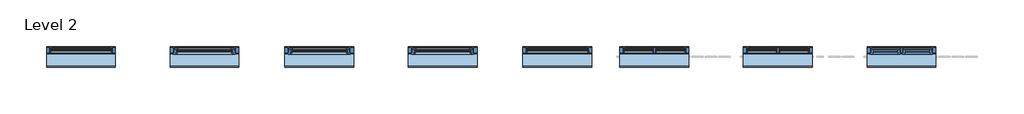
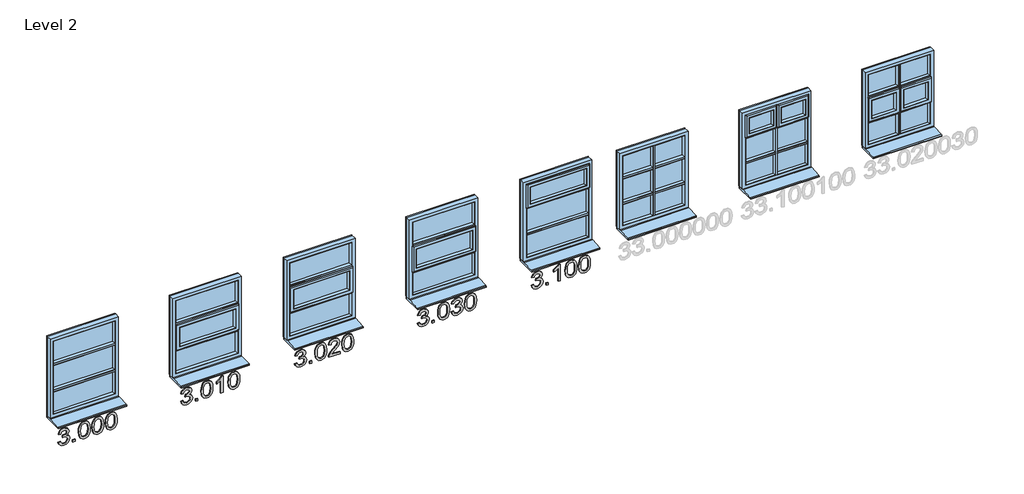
# One storey, part 1 of 2: 8 windows, 5 proxies.
"""IFC4 building model written with IfcOpenShell, lengths in millimetres."""

from ifc_helpers import new_model, si_unit, frame, origin, place, context, project, spatial, polyline, outline, extrude, transform, mapped, element, save
from components import standard_ae2f9f8e, standard_94e4261b, standard_d919b196, standard_7e199e20, standard_d67343e6, standard_8207f25b

model = new_model("IFC4")

# Units and contexts
model_context = context("Model", 3, world=origin())
ifc_project = project(units=[si_unit("LENGTHUNIT", "METRE", prefix="MILLI")], contexts=[model_context])

# Site, building, storey
site = spatial("IfcSite", under=ifc_project)
building = spatial("IfcBuilding", under=site)
storey = spatial("IfcBuildingStorey", under=building, Name="Level 2", Elevation=3000.0)

# Proxies
placement = place(None, origin())
element("IfcBuildingElementProxy", 1, Name="200mm Arial", ObjectType="200mm Arial", at=placement, inside=storey, context=model_context, shape_type="SweptSolid", body=[
    extrude(outline(polyline([(3352.6881933, -163201.9548648), (3329.9898741, -163195.7376591), (3311.9268682, -163181.9911352), (3300.1178561, -163162.2236093), (3296.1815188, -163137.9433976), (3300.7923065, -163111.1002747), (3314.6246695, -163089.3339233), (3335.0789084, -163074.9129491), (3359.5553238, -163070.1059577), (3377.5324907, -163072.5094534), (3392.223245, -163079.7199405), (3403.0389757, -163091.369537), (3409.3910714, -163107.090361), (3416.6383467, -163095.1219334), (3426.0193376, -163086.4889692), (3437.031272, -163081.2650449), (3449.1713779, -163079.5237368), (3462.2005318, -163081.3570154), (3474.5061846, -163086.8568512), (3485.1870252, -163095.8209092), (3493.3417427, -163108.0468542), (3498.5104848, -163122.5475361), (3500.2333988, -163138.3358051), (3496.7385198, -163160.261572), (3486.253883, -163178.2632643), (3469.4171503, -163191.421177), (3446.865984, -163198.8156051), (3443.7267243, -163173.7015276), (3457.4609855, -163169.2501554), (3467.271172, -163161.3897435), (3473.1572839, -163150.6230637), (3475.1193212, -163137.4528883), (3473.175678, -163124.3072383), (3467.3447484, -163113.8103388), (3458.5462374, -163106.9309454), (3447.6998499, -163104.6378143), (3434.6768272, -163107.8015995), (3425.5288283, -163117.292955), (3420.120963, -163130.7451733), (3418.3183412, -163145.7915469), (3418.6126468, -163149.8137233), (3393.4985693, -163152.6096265), (3396.2454215, -163135.0003417), (3393.6763789, -163119.2059413), (3385.9692511, -163106.4526989), (3374.3380487, -163098.0282012), (3359.9967822, -163095.2200353), (3344.889095, -163098.0527266), (3332.4301581, -163106.5508007), (3324.0792368, -163119.8436035), (3321.2955963, -163137.0604808), (3323.3189473, -163151.7328411), (3329.3890002, -163162.9838988), (3340.0453154, -163171.2183241), (3355.8274529, -163176.8407873), (3352.6881933, -163201.9548648)])), frame((0.0, 24202.6264647, 0.0), z_axis=(0.0, 1.0, 0.0), x_axis=(0.0, 0.0, 1.0)), (0.0, 0.0, 1.0), 10.0),
    extrude(outline(polyline([(-163010.4600236, 24202.6264647), (-163035.5741011, 24202.6264647), (-163035.5741011, 24212.6264647), (-163010.4600236, 24212.6264647), (-163010.4600236, 24202.6264647)])), frame((0.0, 0.0, 3299.3207785), z_axis=(0.0, 0.0, 1.0), x_axis=(1.0, 0.0, 0.0)), (0.0, 0.0, 1.0), 25.1140775),
    extrude(outline(polyline([(3398.1584079, -162969.6496476), (3349.2914162, -162964.6464524), (3330.4405296, -162958.3924585), (3315.3113825, -162949.636867), (3300.9639847, -162929.8202902), (3296.1815188, -162903.725194), (3298.9345024, -162883.4242393), (3307.1934532, -162866.96152), (3321.0503417, -162854.2266716), (3340.5971383, -162845.1093295), (3366.1833311, -162839.6278877), (3398.1584079, -162837.8007405), (3445.3699306, -162842.3624772), (3475.0947958, -162854.1347011), (3485.8553441, -162862.8044534), (3493.7586757, -162874.3927363), (3498.614718, -162888.2496248), (3500.2333988, -162903.725194), (3497.4988093, -162923.9157842), (3489.2950408, -162940.3417153), (3475.4933346, -162953.0949578), (3455.964932, -162962.2674822), (3430.3174256, -162967.8041062), (3398.1584079, -162969.6496476)]), holes=[polyline([(3398.2074588, -162944.53557), (3437.2029503, -162941.4944122), (3461.6793657, -162932.3709387), (3471.7593324, -162919.7403236), (3475.1193212, -162904.0194996), (3471.3056112, -162887.4157589), (3459.8644812, -162874.2946344), (3436.8228055, -162865.7597721), (3398.2074588, -162862.914818), (3358.7643775, -162865.857874), (3335.8882488, -162874.6870419), (3324.9437594, -162887.8326918), (3321.2955963, -162903.725194), (3324.9314967, -162919.6176962), (3335.8391979, -162932.7633462), (3358.7030639, -162941.5925141), (3398.2074588, -162944.53557)])]), frame((0.0, 24202.6264647, 0.0), z_axis=(0.0, 1.0, 0.0), x_axis=(0.0, 0.0, 1.0)), (0.0, 0.0, 1.0), 10.0),
    extrude(outline(polyline([(3398.1584079, -162815.8259227), (3349.2914162, -162810.8227275), (3330.4405296, -162804.5687336), (3315.3113825, -162795.8131421), (3300.9639847, -162775.9965653), (3296.1815188, -162749.9014691), (3298.9345024, -162729.6005144), (3307.1934532, -162713.1377951), (3321.0503417, -162700.4029467), (3340.5971383, -162691.2856046), (3366.1833311, -162685.8041628), (3398.1584079, -162683.9770156), (3445.3699306, -162688.5387523), (3475.0947958, -162700.3109762), (3485.8553441, -162708.9807285), (3493.7586757, -162720.5690114), (3498.614718, -162734.4258999), (3500.2333988, -162749.9014691), (3497.4988093, -162770.0920593), (3489.2950408, -162786.5179904), (3475.4933346, -162799.2712329), (3455.964932, -162808.4437573), (3430.3174256, -162813.9803813), (3398.1584079, -162815.8259227)]), holes=[polyline([(3398.2074588, -162790.7118451), (3437.2029503, -162787.6706873), (3461.6793657, -162778.5472138), (3471.7593324, -162765.9165986), (3475.1193212, -162750.1957747), (3471.3056112, -162733.592034), (3459.8644812, -162720.4709095), (3436.8228055, -162711.9360472), (3398.2074588, -162709.0910931), (3358.7643775, -162712.0341491), (3335.8882488, -162720.863317), (3324.9437594, -162734.0089669), (3321.2955963, -162749.9014691), (3324.9314967, -162765.7939713), (3335.8391979, -162778.9396213), (3358.7030639, -162787.7687892), (3398.2074588, -162790.7118451)])]), frame((0.0, 24202.6264647, 0.0), z_axis=(0.0, 1.0, 0.0), x_axis=(0.0, 0.0, 1.0)), (0.0, 0.0, 1.0), 10.0),
    extrude(outline(polyline([(3398.1584079, -162662.0021977), (3349.2914162, -162656.9990026), (3330.4405296, -162650.7450087), (3315.3113825, -162641.9894172), (3300.9639847, -162622.1728404), (3296.1815188, -162596.0777442), (3298.9345024, -162575.7767894), (3307.1934532, -162559.3140702), (3321.0503417, -162546.5792218), (3340.5971383, -162537.4618796), (3366.1833311, -162531.9804379), (3398.1584079, -162530.1532907), (3445.3699306, -162534.7150274), (3475.0947958, -162546.4872513), (3485.8553441, -162555.1570036), (3493.7586757, -162566.7452865), (3498.614718, -162580.6021749), (3500.2333988, -162596.0777442), (3497.4988093, -162616.2683344), (3489.2950408, -162632.6942655), (3475.4933346, -162645.447508), (3455.964932, -162654.6200324), (3430.3174256, -162660.1566564), (3398.1584079, -162662.0021977)]), holes=[polyline([(3398.2074588, -162636.8881202), (3437.2029503, -162633.8469624), (3461.6793657, -162624.7234889), (3471.7593324, -162612.0928737), (3475.1193212, -162596.3720498), (3471.3056112, -162579.7683091), (3459.8644812, -162566.6471846), (3436.8228055, -162558.1123223), (3398.2074588, -162555.2673682), (3358.7643775, -162558.2104242), (3335.8882488, -162567.0395921), (3324.9437594, -162580.185242), (3321.2955963, -162596.0777442), (3324.9314967, -162611.9702464), (3335.8391979, -162625.1158964), (3358.7030639, -162633.9450642), (3398.2074588, -162636.8881202)])]), frame((0.0, 24202.6264647, 0.0), z_axis=(0.0, 1.0, 0.0), x_axis=(0.0, 0.0, 1.0)), (0.0, 0.0, 1.0), 10.0),
])
element("IfcBuildingElementProxy", 2, Name="200mm Arial", ObjectType="200mm Arial", at=placement, inside=storey, context=model_context, shape_type="SweptSolid", body=[
    extrude(outline(polyline([(3352.6881933, -161801.9548648), (3329.9898741, -161795.7376591), (3311.9268682, -161781.9911352), (3300.1178561, -161762.2236093), (3296.1815188, -161737.9433976), (3300.7923065, -161711.1002747), (3314.6246695, -161689.3339233), (3335.0789084, -161674.9129491), (3359.5553238, -161670.1059577), (3377.5324907, -161672.5094534), (3392.223245, -161679.7199405), (3403.0389757, -161691.369537), (3409.3910714, -161707.090361), (3416.6383467, -161695.1219334), (3426.0193376, -161686.4889692), (3437.031272, -161681.2650449), (3449.1713779, -161679.5237368), (3462.2005318, -161681.3570154), (3474.5061846, -161686.8568512), (3485.1870252, -161695.8209092), (3493.3417427, -161708.0468542), (3498.5104848, -161722.5475361), (3500.2333988, -161738.3358051), (3496.7385198, -161760.261572), (3486.253883, -161778.2632643), (3469.4171503, -161791.421177), (3446.865984, -161798.8156051), (3443.7267243, -161773.7015276), (3457.4609855, -161769.2501554), (3467.271172, -161761.3897435), (3473.1572839, -161750.6230637), (3475.1193212, -161737.4528883), (3473.175678, -161724.3072383), (3467.3447484, -161713.8103388), (3458.5462374, -161706.9309454), (3447.6998499, -161704.6378143), (3434.6768272, -161707.8015995), (3425.5288283, -161717.292955), (3420.120963, -161730.7451733), (3418.3183412, -161745.7915469), (3418.6126468, -161749.8137233), (3393.4985693, -161752.6096265), (3396.2454215, -161735.0003417), (3393.6763789, -161719.2059413), (3385.9692511, -161706.4526989), (3374.3380487, -161698.0282012), (3359.9967822, -161695.2200353), (3344.889095, -161698.0527266), (3332.4301581, -161706.5508007), (3324.0792368, -161719.8436035), (3321.2955963, -161737.0604808), (3323.3189473, -161751.7328411), (3329.3890002, -161762.9838988), (3340.0453154, -161771.2183241), (3355.8274529, -161776.8407873), (3352.6881933, -161801.9548648)])), frame((0.0, 24202.6264647, 0.0), z_axis=(0.0, 1.0, 0.0), x_axis=(0.0, 0.0, 1.0)), (0.0, 0.0, 1.0), 10.0),
    extrude(outline(polyline([(-161610.4600236, 24202.6264647), (-161635.5741011, 24202.6264647), (-161635.5741011, 24212.6264647), (-161610.4600236, 24212.6264647), (-161610.4600236, 24202.6264647)])), frame((0.0, 0.0, 3299.3207785), z_axis=(0.0, 0.0, 1.0), x_axis=(1.0, 0.0, 0.0)), (0.0, 0.0, 1.0), 25.1140775),
    extrude(outline(polyline([(3398.1584079, -161569.6496476), (3349.2914162, -161564.6464524), (3330.4405296, -161558.3924585), (3315.3113825, -161549.636867), (3300.9639847, -161529.8202902), (3296.1815188, -161503.725194), (3298.9345024, -161483.4242393), (3307.1934532, -161466.96152), (3321.0503417, -161454.2266716), (3340.5971383, -161445.1093295), (3366.1833311, -161439.6278877), (3398.1584079, -161437.8007405), (3445.3699306, -161442.3624772), (3475.0947958, -161454.1347011), (3485.8553441, -161462.8044534), (3493.7586757, -161474.3927363), (3498.614718, -161488.2496248), (3500.2333988, -161503.725194), (3497.4988093, -161523.9157842), (3489.2950408, -161540.3417153), (3475.4933346, -161553.0949578), (3455.964932, -161562.2674822), (3430.3174256, -161567.8041062), (3398.1584079, -161569.6496476)]), holes=[polyline([(3398.2074588, -161544.53557), (3437.2029503, -161541.4944122), (3461.6793657, -161532.3709387), (3471.7593324, -161519.7403236), (3475.1193212, -161504.0194996), (3471.3056112, -161487.4157589), (3459.8644812, -161474.2946344), (3436.8228055, -161465.7597721), (3398.2074588, -161462.914818), (3358.7643775, -161465.857874), (3335.8882488, -161474.6870419), (3324.9437594, -161487.8326918), (3321.2955963, -161503.725194), (3324.9314967, -161519.6176962), (3335.8391979, -161532.7633462), (3358.7030639, -161541.5925141), (3398.2074588, -161544.53557)])]), frame((0.0, 24202.6264647, 0.0), z_axis=(0.0, 1.0, 0.0), x_axis=(0.0, 0.0, 1.0)), (0.0, 0.0, 1.0), 10.0),
    extrude(outline(polyline([(3299.3207785, -161321.6481319), (3500.2333988, -161321.6481319), (3500.2333988, -161337.8349397), (3487.0754861, -161346.7070271), (3473.5006405, -161360.1776395), (3450.0052437, -161396.9903645), (3426.2645923, -161396.9903645), (3438.9442584, -161370.5519118), (3455.8913556, -161346.7622094), (3299.3207785, -161346.7622094), (3299.3207785, -161321.6481319)])), frame((0.0, 24202.6264647, 0.0), z_axis=(0.0, 1.0, 0.0), x_axis=(0.0, 0.0, 1.0)), (0.0, 0.0, 1.0), 10.0),
    extrude(outline(polyline([(3398.1584079, -161262.0021977), (3349.2914162, -161256.9990026), (3330.4405296, -161250.7450087), (3315.3113825, -161241.9894172), (3300.9639847, -161222.1728404), (3296.1815188, -161196.0777442), (3298.9345024, -161175.7767894), (3307.1934532, -161159.3140702), (3321.0503417, -161146.5792218), (3340.5971383, -161137.4618796), (3366.1833311, -161131.9804379), (3398.1584079, -161130.1532907), (3445.3699306, -161134.7150274), (3475.0947958, -161146.4872513), (3485.8553441, -161155.1570036), (3493.7586757, -161166.7452865), (3498.614718, -161180.6021749), (3500.2333988, -161196.0777442), (3497.4988093, -161216.2683344), (3489.2950408, -161232.6942655), (3475.4933346, -161245.447508), (3455.964932, -161254.6200324), (3430.3174256, -161260.1566564), (3398.1584079, -161262.0021977)]), holes=[polyline([(3398.2074588, -161236.8881202), (3437.2029503, -161233.8469624), (3461.6793657, -161224.7234889), (3471.7593324, -161212.0928737), (3475.1193212, -161196.3720498), (3471.3056112, -161179.7683091), (3459.8644812, -161166.6471846), (3436.8228055, -161158.1123223), (3398.2074588, -161155.2673682), (3358.7643775, -161158.2104242), (3335.8882488, -161167.0395921), (3324.9437594, -161180.185242), (3321.2955963, -161196.0777442), (3324.9314967, -161211.9702464), (3335.8391979, -161225.1158964), (3358.7030639, -161233.9450642), (3398.2074588, -161236.8881202)])]), frame((0.0, 24202.6264647, 0.0), z_axis=(0.0, 1.0, 0.0), x_axis=(0.0, 0.0, 1.0)), (0.0, 0.0, 1.0), 10.0),
])
element("IfcBuildingElementProxy", 3, Name="200mm Arial", ObjectType="200mm Arial", at=placement, inside=storey, context=model_context, shape_type="SweptSolid", body=[
    extrude(outline(polyline([(3352.6881933, -160501.9548648), (3329.9898741, -160495.7376591), (3311.9268682, -160481.9911352), (3300.1178561, -160462.2236093), (3296.1815188, -160437.9433976), (3300.7923065, -160411.1002747), (3314.6246695, -160389.3339233), (3335.0789084, -160374.9129491), (3359.5553238, -160370.1059577), (3377.5324907, -160372.5094534), (3392.223245, -160379.7199405), (3403.0389757, -160391.369537), (3409.3910714, -160407.090361), (3416.6383467, -160395.1219334), (3426.0193376, -160386.4889692), (3437.031272, -160381.2650449), (3449.1713779, -160379.5237368), (3462.2005318, -160381.3570154), (3474.5061846, -160386.8568512), (3485.1870252, -160395.8209092), (3493.3417427, -160408.0468542), (3498.5104848, -160422.5475361), (3500.2333988, -160438.3358051), (3496.7385198, -160460.261572), (3486.253883, -160478.2632643), (3469.4171503, -160491.421177), (3446.865984, -160498.8156051), (3443.7267243, -160473.7015276), (3457.4609855, -160469.2501554), (3467.271172, -160461.3897435), (3473.1572839, -160450.6230637), (3475.1193212, -160437.4528883), (3473.175678, -160424.3072383), (3467.3447484, -160413.8103388), (3458.5462374, -160406.9309454), (3447.6998499, -160404.6378143), (3434.6768272, -160407.8015995), (3425.5288283, -160417.292955), (3420.120963, -160430.7451733), (3418.3183412, -160445.7915469), (3418.6126468, -160449.8137233), (3393.4985693, -160452.6096265), (3396.2454215, -160435.0003417), (3393.6763789, -160419.2059413), (3385.9692511, -160406.4526989), (3374.3380487, -160398.0282012), (3359.9967822, -160395.2200353), (3344.889095, -160398.0527266), (3332.4301581, -160406.5508007), (3324.0792368, -160419.8436035), (3321.2955963, -160437.0604808), (3323.3189473, -160451.7328411), (3329.3890002, -160462.9838988), (3340.0453154, -160471.2183241), (3355.8274529, -160476.8407873), (3352.6881933, -160501.9548648)])), frame((0.0, 24202.6264647, 0.0), z_axis=(0.0, 1.0, 0.0), x_axis=(0.0, 0.0, 1.0)), (0.0, 0.0, 1.0), 10.0),
    extrude(outline(polyline([(-160310.4600236, 24202.6264647), (-160335.5741011, 24202.6264647), (-160335.5741011, 24212.6264647), (-160310.4600236, 24212.6264647), (-160310.4600236, 24202.6264647)])), frame((0.0, 0.0, 3299.3207785), z_axis=(0.0, 0.0, 1.0), x_axis=(1.0, 0.0, 0.0)), (0.0, 0.0, 1.0), 25.1140775),
    extrude(outline(polyline([(3398.1584079, -160269.6496476), (3349.2914162, -160264.6464524), (3330.4405296, -160258.3924585), (3315.3113825, -160249.636867), (3300.9639847, -160229.8202902), (3296.1815188, -160203.725194), (3298.9345024, -160183.4242393), (3307.1934532, -160166.96152), (3321.0503417, -160154.2266716), (3340.5971383, -160145.1093295), (3366.1833311, -160139.6278877), (3398.1584079, -160137.8007405), (3445.3699306, -160142.3624772), (3475.0947958, -160154.1347011), (3485.8553441, -160162.8044534), (3493.7586757, -160174.3927363), (3498.614718, -160188.2496248), (3500.2333988, -160203.725194), (3497.4988093, -160223.9157842), (3489.2950408, -160240.3417153), (3475.4933346, -160253.0949578), (3455.964932, -160262.2674822), (3430.3174256, -160267.8041062), (3398.1584079, -160269.6496476)]), holes=[polyline([(3398.2074588, -160244.53557), (3437.2029503, -160241.4944122), (3461.6793657, -160232.3709387), (3471.7593324, -160219.7403236), (3475.1193212, -160204.0194996), (3471.3056112, -160187.4157589), (3459.8644812, -160174.2946344), (3436.8228055, -160165.7597721), (3398.2074588, -160162.914818), (3358.7643775, -160165.857874), (3335.8882488, -160174.6870419), (3324.9437594, -160187.8326918), (3321.2955963, -160203.725194), (3324.9314967, -160219.6176962), (3335.8391979, -160232.7633462), (3358.7030639, -160241.5925141), (3398.2074588, -160244.53557)])]), frame((0.0, 24202.6264647, 0.0), z_axis=(0.0, 1.0, 0.0), x_axis=(0.0, 0.0, 1.0)), (0.0, 0.0, 1.0), 10.0),
    extrude(outline(polyline([(3324.434856, -159987.1162753), (3324.434856, -160085.7577009), (3337.212624, -160074.4269355), (3361.3702083, -160045.5359361), (3395.7794376, -160009.557077), (3420.4030058, -159994.7191698), (3444.2172337, -159990.255535), (3466.1184751, -159994.3942074), (3484.1446929, -160006.8102248), (3496.2112223, -160026.3263646), (3500.2333988, -160051.7654046), (3496.6158925, -160077.0205035), (3485.7633736, -160096.5734316), (3468.0191987, -160109.7374756), (3443.7267243, -160115.8259227), (3440.5874646, -160090.7118451), (3455.0207016, -160087.9956497), (3465.9467968, -160080.1413691), (3472.8261901, -160067.9706065), (3475.1193212, -160052.3049648), (3472.7710078, -160037.3873499), (3465.7260676, -160025.596732), (3455.2720876, -160017.9263924), (3442.6966547, -160015.3696125), (3428.668088, -160018.0796765), (3414.2471138, -160026.2098686), (3372.4066682, -160069.5708931), (3343.2949396, -160101.012541), (3316.6357577, -160116.2673811), (3299.3207785, -160118.9651824), (3299.3207785, -159987.1162753), (3324.434856, -159987.1162753)])), frame((0.0, 24202.6264647, 0.0), z_axis=(0.0, 1.0, 0.0), x_axis=(0.0, 0.0, 1.0)), (0.0, 0.0, 1.0), 10.0),
    extrude(outline(polyline([(3398.1584079, -159962.0021977), (3349.2914162, -159956.9990026), (3330.4405296, -159950.7450087), (3315.3113825, -159941.9894172), (3300.9639847, -159922.1728404), (3296.1815188, -159896.0777442), (3298.9345024, -159875.7767894), (3307.1934532, -159859.3140702), (3321.0503417, -159846.5792218), (3340.5971383, -159837.4618796), (3366.1833311, -159831.9804379), (3398.1584079, -159830.1532907), (3445.3699306, -159834.7150274), (3475.0947958, -159846.4872513), (3485.8553441, -159855.1570036), (3493.7586757, -159866.7452865), (3498.614718, -159880.6021749), (3500.2333988, -159896.0777442), (3497.4988093, -159916.2683344), (3489.2950408, -159932.6942655), (3475.4933346, -159945.447508), (3455.964932, -159954.6200324), (3430.3174256, -159960.1566564), (3398.1584079, -159962.0021977)]), holes=[polyline([(3398.2074588, -159936.8881202), (3437.2029503, -159933.8469624), (3461.6793657, -159924.7234889), (3471.7593324, -159912.0928737), (3475.1193212, -159896.3720498), (3471.3056112, -159879.7683091), (3459.8644812, -159866.6471846), (3436.8228055, -159858.1123223), (3398.2074588, -159855.2673682), (3358.7643775, -159858.2104242), (3335.8882488, -159867.0395921), (3324.9437594, -159880.185242), (3321.2955963, -159896.0777442), (3324.9314967, -159911.9702464), (3335.8391979, -159925.1158964), (3358.7030639, -159933.9450642), (3398.2074588, -159936.8881202)])]), frame((0.0, 24202.6264647, 0.0), z_axis=(0.0, 1.0, 0.0), x_axis=(0.0, 0.0, 1.0)), (0.0, 0.0, 1.0), 10.0),
])
element("IfcBuildingElementProxy", 4, Name="200mm Arial", ObjectType="200mm Arial", at=placement, inside=storey, context=model_context, shape_type="SweptSolid", body=[
    extrude(outline(polyline([(3352.6881933, -159101.9548648), (3329.9898741, -159095.7376591), (3311.9268682, -159081.9911352), (3300.1178561, -159062.2236093), (3296.1815188, -159037.9433976), (3300.7923065, -159011.1002747), (3314.6246695, -158989.3339233), (3335.0789084, -158974.9129491), (3359.5553238, -158970.1059577), (3377.5324907, -158972.5094534), (3392.223245, -158979.7199405), (3403.0389757, -158991.369537), (3409.3910714, -159007.090361), (3416.6383467, -158995.1219334), (3426.0193376, -158986.4889692), (3437.031272, -158981.2650449), (3449.1713779, -158979.5237368), (3462.2005318, -158981.3570154), (3474.5061846, -158986.8568512), (3485.1870252, -158995.8209092), (3493.3417427, -159008.0468542), (3498.5104848, -159022.5475361), (3500.2333988, -159038.3358051), (3496.7385198, -159060.261572), (3486.253883, -159078.2632643), (3469.4171503, -159091.421177), (3446.865984, -159098.8156051), (3443.7267243, -159073.7015276), (3457.4609855, -159069.2501554), (3467.271172, -159061.3897435), (3473.1572839, -159050.6230637), (3475.1193212, -159037.4528883), (3473.175678, -159024.3072383), (3467.3447484, -159013.8103388), (3458.5462374, -159006.9309454), (3447.6998499, -159004.6378143), (3434.6768272, -159007.8015995), (3425.5288283, -159017.292955), (3420.120963, -159030.7451733), (3418.3183412, -159045.7915469), (3418.6126468, -159049.8137233), (3393.4985693, -159052.6096265), (3396.2454215, -159035.0003417), (3393.6763789, -159019.2059413), (3385.9692511, -159006.4526989), (3374.3380487, -158998.0282012), (3359.9967822, -158995.2200353), (3344.889095, -158998.0527266), (3332.4301581, -159006.5508007), (3324.0792368, -159019.8436035), (3321.2955963, -159037.0604808), (3323.3189473, -159051.7328411), (3329.3890002, -159062.9838988), (3340.0453154, -159071.2183241), (3355.8274529, -159076.8407873), (3352.6881933, -159101.9548648)])), frame((0.0, 24202.6264647, 0.0), z_axis=(0.0, 1.0, 0.0), x_axis=(0.0, 0.0, 1.0)), (0.0, 0.0, 1.0), 10.0),
    extrude(outline(polyline([(-158910.4600236, 24202.6264647), (-158935.5741011, 24202.6264647), (-158935.5741011, 24212.6264647), (-158910.4600236, 24212.6264647), (-158910.4600236, 24202.6264647)])), frame((0.0, 0.0, 3299.3207785), z_axis=(0.0, 0.0, 1.0), x_axis=(1.0, 0.0, 0.0)), (0.0, 0.0, 1.0), 25.1140775),
    extrude(outline(polyline([(3398.1584079, -158869.6496476), (3349.2914162, -158864.6464524), (3330.4405296, -158858.3924585), (3315.3113825, -158849.636867), (3300.9639847, -158829.8202902), (3296.1815188, -158803.725194), (3298.9345024, -158783.4242393), (3307.1934532, -158766.96152), (3321.0503417, -158754.2266716), (3340.5971383, -158745.1093295), (3366.1833311, -158739.6278877), (3398.1584079, -158737.8007405), (3445.3699306, -158742.3624772), (3475.0947958, -158754.1347011), (3485.8553441, -158762.8044534), (3493.7586757, -158774.3927363), (3498.614718, -158788.2496248), (3500.2333988, -158803.725194), (3497.4988093, -158823.9157842), (3489.2950408, -158840.3417153), (3475.4933346, -158853.0949578), (3455.964932, -158862.2674822), (3430.3174256, -158867.8041062), (3398.1584079, -158869.6496476)]), holes=[polyline([(3398.2074588, -158844.53557), (3437.2029503, -158841.4944122), (3461.6793657, -158832.3709387), (3471.7593324, -158819.7403236), (3475.1193212, -158804.0194996), (3471.3056112, -158787.4157589), (3459.8644812, -158774.2946344), (3436.8228055, -158765.7597721), (3398.2074588, -158762.914818), (3358.7643775, -158765.857874), (3335.8882488, -158774.6870419), (3324.9437594, -158787.8326918), (3321.2955963, -158803.725194), (3324.9314967, -158819.6176962), (3335.8391979, -158832.7633462), (3358.7030639, -158841.5925141), (3398.2074588, -158844.53557)])]), frame((0.0, 24202.6264647, 0.0), z_axis=(0.0, 1.0, 0.0), x_axis=(0.0, 0.0, 1.0)), (0.0, 0.0, 1.0), 10.0),
    extrude(outline(polyline([(3352.6881933, -158715.8259227), (3329.9898741, -158709.6087169), (3311.9268682, -158695.8621931), (3300.1178561, -158676.0946672), (3296.1815188, -158651.8144555), (3300.7923065, -158624.9713326), (3314.6246695, -158603.2049812), (3335.0789084, -158588.784007), (3359.5553238, -158583.9770156), (3377.5324907, -158586.3805113), (3392.223245, -158593.5909984), (3403.0389757, -158605.2405949), (3409.3910714, -158620.9614188), (3416.6383467, -158608.9929913), (3426.0193376, -158600.3600271), (3437.031272, -158595.1361028), (3449.1713779, -158593.3947947), (3462.2005318, -158595.2280733), (3474.5061846, -158600.7279091), (3485.1870252, -158609.6919671), (3493.3417427, -158621.917912), (3498.5104848, -158636.418594), (3500.2333988, -158652.206863), (3496.7385198, -158674.1326299), (3486.253883, -158692.1343222), (3469.4171503, -158705.2922349), (3446.865984, -158712.686663), (3443.7267243, -158687.5725854), (3457.4609855, -158683.1212133), (3467.271172, -158675.2608013), (3473.1572839, -158664.4941216), (3475.1193212, -158651.3239462), (3473.175678, -158638.1782962), (3467.3447484, -158627.6813966), (3458.5462374, -158620.8020033), (3447.6998499, -158618.5088722), (3434.6768272, -158621.6726574), (3425.5288283, -158631.1640128), (3420.120963, -158644.6162311), (3418.3183412, -158659.6626047), (3418.6126468, -158663.6847812), (3393.4985693, -158666.4806844), (3396.2454215, -158648.8713995), (3393.6763789, -158633.0769992), (3385.9692511, -158620.3237567), (3374.3380487, -158611.899259), (3359.9967822, -158609.0910931), (3344.889095, -158611.9237845), (3332.4301581, -158620.4218586), (3324.0792368, -158633.7146613), (3321.2955963, -158650.9315387), (3323.3189473, -158665.603899), (3329.3890002, -158676.8549566), (3340.0453154, -158685.089382), (3355.8274529, -158690.7118451), (3352.6881933, -158715.8259227)])), frame((0.0, 24202.6264647, 0.0), z_axis=(0.0, 1.0, 0.0), x_axis=(0.0, 0.0, 1.0)), (0.0, 0.0, 1.0), 10.0),
    extrude(outline(polyline([(3398.1584079, -158562.0021977), (3349.2914162, -158556.9990026), (3330.4405296, -158550.7450087), (3315.3113825, -158541.9894172), (3300.9639847, -158522.1728404), (3296.1815188, -158496.0777442), (3298.9345024, -158475.7767894), (3307.1934532, -158459.3140702), (3321.0503417, -158446.5792218), (3340.5971383, -158437.4618796), (3366.1833311, -158431.9804379), (3398.1584079, -158430.1532907), (3445.3699306, -158434.7150274), (3475.0947958, -158446.4872513), (3485.8553441, -158455.1570036), (3493.7586757, -158466.7452865), (3498.614718, -158480.6021749), (3500.2333988, -158496.0777442), (3497.4988093, -158516.2683344), (3489.2950408, -158532.6942655), (3475.4933346, -158545.447508), (3455.964932, -158554.6200324), (3430.3174256, -158560.1566564), (3398.1584079, -158562.0021977)]), holes=[polyline([(3398.2074588, -158536.8881202), (3437.2029503, -158533.8469624), (3461.6793657, -158524.7234889), (3471.7593324, -158512.0928737), (3475.1193212, -158496.3720498), (3471.3056112, -158479.7683091), (3459.8644812, -158466.6471846), (3436.8228055, -158458.1123223), (3398.2074588, -158455.2673682), (3358.7643775, -158458.2104242), (3335.8882488, -158467.0395921), (3324.9437594, -158480.185242), (3321.2955963, -158496.0777442), (3324.9314967, -158511.9702464), (3335.8391979, -158525.1158964), (3358.7030639, -158533.9450642), (3398.2074588, -158536.8881202)])]), frame((0.0, 24202.6264647, 0.0), z_axis=(0.0, 1.0, 0.0), x_axis=(0.0, 0.0, 1.0)), (0.0, 0.0, 1.0), 10.0),
])
element("IfcBuildingElementProxy", 5, Name="200mm Arial", ObjectType="200mm Arial", at=placement, inside=storey, context=model_context, shape_type="SweptSolid", body=[
    extrude(outline(polyline([(3352.6881933, -157801.9548648), (3329.9898741, -157795.7376591), (3311.9268682, -157781.9911352), (3300.1178561, -157762.2236093), (3296.1815188, -157737.9433976), (3300.7923065, -157711.1002747), (3314.6246695, -157689.3339233), (3335.0789084, -157674.9129491), (3359.5553238, -157670.1059577), (3377.5324907, -157672.5094534), (3392.223245, -157679.7199405), (3403.0389757, -157691.369537), (3409.3910714, -157707.090361), (3416.6383467, -157695.1219334), (3426.0193376, -157686.4889692), (3437.031272, -157681.2650449), (3449.1713779, -157679.5237368), (3462.2005318, -157681.3570154), (3474.5061846, -157686.8568512), (3485.1870252, -157695.8209092), (3493.3417427, -157708.0468542), (3498.5104848, -157722.5475361), (3500.2333988, -157738.3358051), (3496.7385198, -157760.261572), (3486.253883, -157778.2632643), (3469.4171503, -157791.421177), (3446.865984, -157798.8156051), (3443.7267243, -157773.7015276), (3457.4609855, -157769.2501554), (3467.271172, -157761.3897435), (3473.1572839, -157750.6230637), (3475.1193212, -157737.4528883), (3473.175678, -157724.3072383), (3467.3447484, -157713.8103388), (3458.5462374, -157706.9309454), (3447.6998499, -157704.6378143), (3434.6768272, -157707.8015995), (3425.5288283, -157717.292955), (3420.120963, -157730.7451733), (3418.3183412, -157745.7915469), (3418.6126468, -157749.8137233), (3393.4985693, -157752.6096265), (3396.2454215, -157735.0003417), (3393.6763789, -157719.2059413), (3385.9692511, -157706.4526989), (3374.3380487, -157698.0282012), (3359.9967822, -157695.2200353), (3344.889095, -157698.0527266), (3332.4301581, -157706.5508007), (3324.0792368, -157719.8436035), (3321.2955963, -157737.0604808), (3323.3189473, -157751.7328411), (3329.3890002, -157762.9838988), (3340.0453154, -157771.2183241), (3355.8274529, -157776.8407873), (3352.6881933, -157801.9548648)])), frame((0.0, 24202.6264647, 0.0), z_axis=(0.0, 1.0, 0.0), x_axis=(0.0, 0.0, 1.0)), (0.0, 0.0, 1.0), 10.0),
    extrude(outline(polyline([(-157610.4600236, 24202.6264647), (-157635.5741011, 24202.6264647), (-157635.5741011, 24212.6264647), (-157610.4600236, 24212.6264647), (-157610.4600236, 24202.6264647)])), frame((0.0, 0.0, 3299.3207785), z_axis=(0.0, 0.0, 1.0), x_axis=(1.0, 0.0, 0.0)), (0.0, 0.0, 1.0), 25.1140775),
    extrude(outline(polyline([(3299.3207785, -157475.4718568), (3500.2333988, -157475.4718568), (3500.2333988, -157491.6586646), (3487.0754861, -157500.530752), (3473.5006405, -157514.0013644), (3450.0052437, -157550.8140894), (3426.2645923, -157550.8140894), (3438.9442584, -157524.3756367), (3455.8913556, -157500.5859343), (3299.3207785, -157500.5859343), (3299.3207785, -157475.4718568)])), frame((0.0, 24202.6264647, 0.0), z_axis=(0.0, 1.0, 0.0), x_axis=(0.0, 0.0, 1.0)), (0.0, 0.0, 1.0), 10.0),
    extrude(outline(polyline([(3398.1584079, -157415.8259227), (3349.2914162, -157410.8227275), (3330.4405296, -157404.5687336), (3315.3113825, -157395.8131421), (3300.9639847, -157375.9965653), (3296.1815188, -157349.9014691), (3298.9345024, -157329.6005144), (3307.1934532, -157313.1377951), (3321.0503417, -157300.4029467), (3340.5971383, -157291.2856046), (3366.1833311, -157285.8041628), (3398.1584079, -157283.9770156), (3445.3699306, -157288.5387523), (3475.0947958, -157300.3109762), (3485.8553441, -157308.9807285), (3493.7586757, -157320.5690114), (3498.614718, -157334.4258999), (3500.2333988, -157349.9014691), (3497.4988093, -157370.0920593), (3489.2950408, -157386.5179904), (3475.4933346, -157399.2712329), (3455.964932, -157408.4437573), (3430.3174256, -157413.9803813), (3398.1584079, -157415.8259227)]), holes=[polyline([(3398.2074588, -157390.7118451), (3437.2029503, -157387.6706873), (3461.6793657, -157378.5472138), (3471.7593324, -157365.9165986), (3475.1193212, -157350.1957747), (3471.3056112, -157333.592034), (3459.8644812, -157320.4709095), (3436.8228055, -157311.9360472), (3398.2074588, -157309.0910931), (3358.7643775, -157312.0341491), (3335.8882488, -157320.863317), (3324.9437594, -157334.0089669), (3321.2955963, -157349.9014691), (3324.9314967, -157365.7939713), (3335.8391979, -157378.9396213), (3358.7030639, -157387.7687892), (3398.2074588, -157390.7118451)])]), frame((0.0, 24202.6264647, 0.0), z_axis=(0.0, 1.0, 0.0), x_axis=(0.0, 0.0, 1.0)), (0.0, 0.0, 1.0), 10.0),
    extrude(outline(polyline([(3398.1584079, -157262.0021977), (3349.2914162, -157256.9990026), (3330.4405296, -157250.7450087), (3315.3113825, -157241.9894172), (3300.9639847, -157222.1728404), (3296.1815188, -157196.0777442), (3298.9345024, -157175.7767894), (3307.1934532, -157159.3140702), (3321.0503417, -157146.5792218), (3340.5971383, -157137.4618796), (3366.1833311, -157131.9804379), (3398.1584079, -157130.1532907), (3445.3699306, -157134.7150274), (3475.0947958, -157146.4872513), (3485.8553441, -157155.1570036), (3493.7586757, -157166.7452865), (3498.614718, -157180.6021749), (3500.2333988, -157196.0777442), (3497.4988093, -157216.2683344), (3489.2950408, -157232.6942655), (3475.4933346, -157245.447508), (3455.964932, -157254.6200324), (3430.3174256, -157260.1566564), (3398.1584079, -157262.0021977)]), holes=[polyline([(3398.2074588, -157236.8881202), (3437.2029503, -157233.8469624), (3461.6793657, -157224.7234889), (3471.7593324, -157212.0928737), (3475.1193212, -157196.3720498), (3471.3056112, -157179.7683091), (3459.8644812, -157166.6471846), (3436.8228055, -157158.1123223), (3398.2074588, -157155.2673682), (3358.7643775, -157158.2104242), (3335.8882488, -157167.0395921), (3324.9437594, -157180.185242), (3321.2955963, -157196.0777442), (3324.9314967, -157211.9702464), (3335.8391979, -157225.1158964), (3358.7030639, -157233.9450642), (3398.2074588, -157236.8881202)])]), frame((0.0, 24202.6264647, 0.0), z_axis=(0.0, 1.0, 0.0), x_axis=(0.0, 0.0, 1.0)), (0.0, 0.0, 1.0), 10.0),
])

# Windows
standard_shape = standard_ae2f9f8e(model_context)
element("IfcWindow", 6, ObjectType="SMARTS_Alitherm600 : Standard", at=placement, inside=storey, context=model_context, shape_type="MappedRepresentation", body=[
    mapped(standard_shape, transform((-153576.7668676, 24355.9063079, 3000.0), x_axis=(-1.0, 0.0, 0.0), y_axis=(0.0, -1.0, 0.0), z_axis=(0.0, 0.0, 1.0))),
])
standard_2_shape = standard_94e4261b(model_context)
element("IfcWindow", 7, ObjectType="SMARTS_Alitherm600 : Standard", at=placement, inside=storey, context=model_context, shape_type="MappedRepresentation", body=[
    mapped(standard_2_shape, transform((-154976.7668676, 24355.9063079, 3000.0), x_axis=(-1.0, 0.0, 0.0), y_axis=(0.0, -1.0, 0.0), z_axis=(0.0, 0.0, 1.0))),
])
standard_3_shape = standard_d919b196(model_context)
element("IfcWindow", 8, ObjectType="SMARTS_Alitherm600 : Standard", at=placement, inside=storey, context=model_context, shape_type="MappedRepresentation", body=[
    mapped(standard_3_shape, transform((-156376.7668676, 24355.9063079, 3000.0), x_axis=(-1.0, 0.0, 0.0), y_axis=(0.0, -1.0, 0.0), z_axis=(0.0, 0.0, 1.0))),
])
standard_4_shape = standard_7e199e20(model_context)
element("IfcWindow", 9, ObjectType="SMARTS_Alitherm600 : Standard", at=placement, inside=storey, context=model_context, shape_type="MappedRepresentation", body=[
    mapped(standard_4_shape, transform((-162876.7668676, 24355.9063079, 3000.0), x_axis=(-1.0, 0.0, 0.0), y_axis=(0.0, -1.0, 0.0), z_axis=(0.0, 0.0, 1.0))),
])
standard_5_shape = standard_d67343e6(model_context)
element("IfcWindow", 10, ObjectType="SMARTS_Alitherm600 : Standard", at=placement, inside=storey, context=model_context, shape_type="MappedRepresentation", body=[
    mapped(standard_5_shape, transform((-161476.7668676, 24355.9063079, 3000.0), x_axis=(-1.0, 0.0, 0.0), y_axis=(0.0, -1.0, 0.0), z_axis=(0.0, 0.0, 1.0))),
])
element("IfcWindow", 11, ObjectType="SMARTS_Alitherm600 : Standard", at=placement, inside=storey, context=model_context, shape_type="MappedRepresentation", body=[
    mapped(standard_5_shape, transform((-160176.7668676, 24355.9063079, 3000.0), x_axis=(-1.0, 0.0, 0.0), y_axis=(0.0, -1.0, 0.0), z_axis=(0.0, 0.0, 1.0))),
])
element("IfcWindow", 12, ObjectType="SMARTS_Alitherm600 : Standard", at=placement, inside=storey, context=model_context, shape_type="MappedRepresentation", body=[
    mapped(standard_5_shape, transform((-158776.7668676, 24355.9063079, 3000.0), x_axis=(-1.0, 0.0, 0.0), y_axis=(0.0, -1.0, 0.0), z_axis=(0.0, 0.0, 1.0))),
])
standard_6_shape = standard_8207f25b(model_context)
element("IfcWindow", 13, ObjectType="SMARTS_Alitherm600 : Standard", at=placement, inside=storey, context=model_context, shape_type="MappedRepresentation", body=[
    mapped(standard_6_shape, transform((-157476.7668676, 24355.9063079, 3000.0), x_axis=(-1.0, 0.0, 0.0), y_axis=(0.0, -1.0, 0.0), z_axis=(0.0, 0.0, 1.0))),
])

save(model, "model.ifc")
